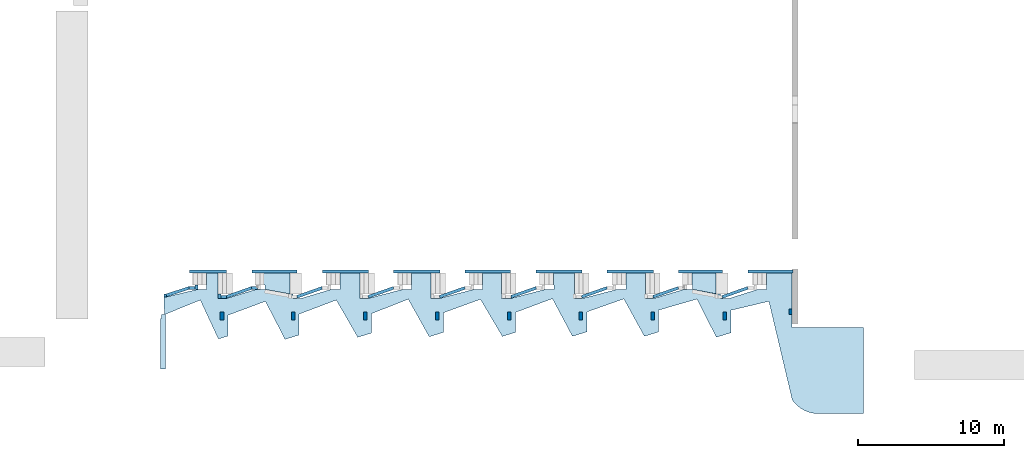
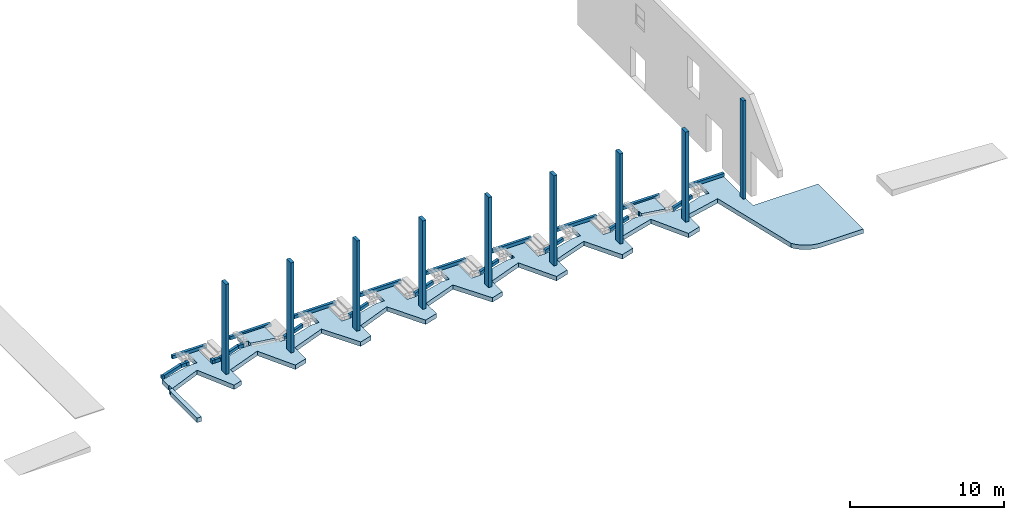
# One storey, part 1 of 8: 24 walls, 9 columns, 3 slabs.
"""IFC4 building model written with IfcOpenShell, lengths in metres."""

from ifc_helpers import new_model, entity, si_unit, converted_unit, derived_unit, direction, frame, origin, place, context, subcontext, project, spatial, line, arc, indexed_curve, outline, extrude, source, transform, mapped, material, type_object, type_shapes, element, save


model = new_model("IFC4")

# Units and contexts
model_context = context("Model", 3, precision=1e-05, world=origin(), true_north=direction((6.123031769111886e-17, 1.0)))
body_context = subcontext(model_context, "Body", "Model", "MODEL_VIEW")
ifc_project = project(units=[si_unit("LENGTHUNIT", "METRE"), si_unit("AREAUNIT", "SQUARE_METRE"), si_unit("VOLUMEUNIT", "CUBIC_METRE"), converted_unit("PLANEANGLEUNIT", "DEGREE", entity("IfcRatioMeasure", 0.017453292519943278), si_unit("PLANEANGLEUNIT", "RADIAN"), dimensions=[0, 0, 0, 0, 0, 0, 0]), si_unit("MASSUNIT", "GRAM", prefix="KILO"), derived_unit("MASSDENSITYUNIT", [(si_unit("MASSUNIT", "GRAM", prefix="KILO"), 1), (si_unit("LENGTHUNIT", "METRE"), -3)]), derived_unit("MOMENTOFINERTIAUNIT", [(si_unit("LENGTHUNIT", "METRE"), 4)]), si_unit("TIMEUNIT", "SECOND"), si_unit("FREQUENCYUNIT", "HERTZ"), si_unit("THERMODYNAMICTEMPERATUREUNIT", "DEGREE_CELSIUS"), derived_unit("THERMALTRANSMITTANCEUNIT", [(si_unit("MASSUNIT", "GRAM", prefix="KILO"), 1), (si_unit("THERMODYNAMICTEMPERATUREUNIT", "KELVIN"), -1), (si_unit("TIMEUNIT", "SECOND"), -3)]), derived_unit("VOLUMETRICFLOWRATEUNIT", [(si_unit("LENGTHUNIT", "METRE"), 3), (si_unit("TIMEUNIT", "SECOND"), -1)]), derived_unit("MASSFLOWRATEUNIT", [(si_unit("MASSUNIT", "GRAM", prefix="KILO"), 1), (si_unit("TIMEUNIT", "SECOND"), -1)]), derived_unit("ROTATIONALFREQUENCYUNIT", [(si_unit("TIMEUNIT", "SECOND"), -1)]), si_unit("ELECTRICCURRENTUNIT", "AMPERE"), si_unit("ELECTRICVOLTAGEUNIT", "VOLT"), si_unit("POWERUNIT", "WATT"), si_unit("FORCEUNIT", "NEWTON", prefix="KILO"), si_unit("ILLUMINANCEUNIT", "LUX"), si_unit("LUMINOUSFLUXUNIT", "LUMEN"), si_unit("LUMINOUSINTENSITYUNIT", "CANDELA"), derived_unit("USERDEFINED", [(si_unit("MASSUNIT", "GRAM", prefix="KILO"), -1), (si_unit("LENGTHUNIT", "METRE"), -2), (si_unit("TIMEUNIT", "SECOND"), 3), (si_unit("LUMINOUSFLUXUNIT", "LUMEN"), 1)]), derived_unit("SOUNDPOWERUNIT", [(si_unit("MASSUNIT", "GRAM", prefix="KILO"), 1), (si_unit("LENGTHUNIT", "METRE"), 2), (si_unit("TIMEUNIT", "SECOND"), -3)]), derived_unit("SOUNDPRESSUREUNIT", [(si_unit("MASSUNIT", "GRAM", prefix="KILO"), 1), (si_unit("LENGTHUNIT", "METRE"), -1), (si_unit("TIMEUNIT", "SECOND"), -2)]), derived_unit("LINEARVELOCITYUNIT", [(si_unit("LENGTHUNIT", "METRE"), 1), (si_unit("TIMEUNIT", "SECOND"), -1)]), si_unit("PRESSUREUNIT", "PASCAL"), derived_unit("USERDEFINED", [(si_unit("LENGTHUNIT", "METRE"), -2), (si_unit("MASSUNIT", "GRAM", prefix="KILO"), 1), (si_unit("TIMEUNIT", "SECOND"), -2)]), derived_unit("LINEARFORCEUNIT", [(si_unit("MASSUNIT", "GRAM", prefix="KILO"), 1), (si_unit("LENGTHUNIT", "METRE"), 1), (si_unit("TIMEUNIT", "SECOND"), -2), (si_unit("LENGTHUNIT", "METRE"), -1)]), derived_unit("PLANARFORCEUNIT", [(si_unit("MASSUNIT", "GRAM", prefix="KILO"), 1), (si_unit("LENGTHUNIT", "METRE"), 1), (si_unit("TIMEUNIT", "SECOND"), -2), (si_unit("LENGTHUNIT", "METRE"), -2)])], contexts=[model_context])

# Site, building, storey
site_placement = place(None, origin())
site = spatial("IfcSite", under=ifc_project, at=site_placement, Name="Superficie", CompositionType="ELEMENT")
building_placement = place(site_placement, origin())
building = spatial("IfcBuilding", under=site, at=building_placement, CompositionType="ELEMENT")
storey_placement = place(building_placement, frame((0.0, 0.0, -0.5599999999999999)))
storey = spatial("IfcBuildingStorey", under=building, at=storey_placement, Name="Nivel -1", CompositionType="ELEMENT", Elevation=-0.5599999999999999)

# Columns
ifc_material_1 = material(Name="<Unnamed>")
column_type_1 = type_object("IfcColumnType", Name="Pilar rectangular hormigón:250 x 560 mm 2", PredefinedType="COLUMN", material=ifc_material_1)
shared_shape_1 = source(origin(), body_context, "Body", "SweptSolid", [
    extrude(outline(indexed_curve([(-0.27999999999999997, -0.12499999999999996), (0.27999999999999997, -0.12499999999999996), (0.27999999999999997, 0.12499999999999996), (-0.27999999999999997, 0.12499999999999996), (-0.27999999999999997, -0.12499999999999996)], self_intersect=False)), frame((0.0, 0.0, -0.5600000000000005), z_axis=(0.0, 0.0, 1.0), x_axis=(0.0, -1.0, 0.0)), (0.0, 0.0, 1.0), 7.150000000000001),
])
type_shapes(column_type_1, [shared_shape_1])
for number, where in (
    (1, (15.961799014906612, -9.414451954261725, 0.5599999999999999)),
    (2, (11.011799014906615, -9.414451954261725, 0.5599999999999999)),
    (3, (6.061799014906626, -9.414451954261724, 0.5599999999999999)),
    (4, (1.1617990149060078, -9.414451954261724, 0.5599999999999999)),
    (5, (-8.738200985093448, -9.414451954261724, 0.5599999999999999)),
    (6, (-13.688200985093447, -9.414451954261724, 0.5599999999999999)),
):
    element("IfcColumn", number, at=place(storey_placement, frame(where)), inside=storey, type_object=column_type_1, material=ifc_material_1, Name="Pilar rectangular hormigón:250 x 560 mm 2", ObjectType="Pilar rectangular hormigón:250 x 560 mm 2", PredefinedType="COLUMN", context=body_context, shape_type="MappedRepresentation", body=[
        mapped(shared_shape_1, transform((0.0, 0.0, 0.0), scale=1.0)),
    ])
column_type_2 = type_object("IfcColumnType", Name="Pilar rectangular hormigón:250 x 560 mm 2", PredefinedType="COLUMN", material=ifc_material_1)
shared_shape_2 = source(origin(), body_context, "Body", "SweptSolid", [
    extrude(outline(indexed_curve([(-0.28000000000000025, -0.12499999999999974), (0.28000000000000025, -0.12499999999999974), (0.28000000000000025, 0.12500000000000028), (-0.28000000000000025, 0.12500000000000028), (-0.28000000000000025, -0.12499999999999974)], self_intersect=False)), frame((-3.788200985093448, -9.414451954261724, -0.5600000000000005), z_axis=(0.0, 0.0, 1.0), x_axis=(0.0, -1.0, 0.0)), (0.0, 0.0, 1.0), 7.017124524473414),
])
type_shapes(column_type_2, [shared_shape_2])
column_1_placement = place(storey_placement, frame((0.0, 0.0, 0.5599999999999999)))
element("IfcColumn", 7, at=column_1_placement, inside=storey, type_object=column_type_2, material=ifc_material_1, Name="Pilar rectangular hormigón:250 x 560 mm 2", ObjectType="Pilar rectangular hormigón:250 x 560 mm 2", PredefinedType="COLUMN", context=body_context, shape_type="MappedRepresentation", body=[
    mapped(shared_shape_2, transform((0.0, 0.0, 0.0), scale=1.0)),
])
column_type_3 = type_object("IfcColumnType", Name="Pilar rectangular hormigón:250 x 560 mm 2", PredefinedType="COLUMN", material=ifc_material_1)
shared_shape_3 = source(origin(), body_context, "Body", "SweptSolid", [
    extrude(outline(indexed_curve([(-0.2800000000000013, -0.12499999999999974), (0.27999999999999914, -0.12499999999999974), (0.27999999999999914, 0.12499999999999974), (-0.2800000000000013, 0.12499999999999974), (-0.2800000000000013, -0.12499999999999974)], self_intersect=False)), frame((-18.578200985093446, -9.414451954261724, -0.5600000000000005), z_axis=(0.0, 0.0, 1.0), x_axis=(0.0, -1.0, 0.0)), (0.0, 0.0, 1.0), 7.150000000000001),
])
type_shapes(column_type_3, [shared_shape_3])
column_2_placement = place(storey_placement, frame((0.0, 0.0, 0.5599999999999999)))
element("IfcColumn", 8, at=column_2_placement, inside=storey, type_object=column_type_3, material=ifc_material_1, Name="Pilar rectangular hormigón:250 x 560 mm 2", ObjectType="Pilar rectangular hormigón:250 x 560 mm 2", PredefinedType="COLUMN", context=body_context, shape_type="MappedRepresentation", body=[
    mapped(shared_shape_3, transform((0.0, 0.0, 0.0), scale=1.0)),
])
column_type_4 = type_object("IfcColumnType", Name="Pilar rectangular hormigón:200 x 370 mm 3", PredefinedType="COLUMN", material=ifc_material_1)
shared_shape_4 = source(origin(), body_context, "Body", "SweptSolid", [
    extrude(outline(indexed_curve([(-0.18500000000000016, -0.11000000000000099), (0.18500000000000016, -0.11000000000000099), (0.18500000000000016, 0.11000000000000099), (-0.18500000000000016, 0.11000000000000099), (-0.18500000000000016, -0.11000000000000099)], self_intersect=False)), frame((20.476799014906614, -9.109170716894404, -0.5600000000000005), z_axis=(0.0, 0.0, 1.0), x_axis=(0.0, -1.0, 0.0)), (0.0, 0.0, 1.0), 7.8100000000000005),
])
type_shapes(column_type_4, [shared_shape_4])
column_3_placement = place(storey_placement, frame((0.0, 0.0, 0.5599999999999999)))
element("IfcColumn", 9, at=column_3_placement, inside=storey, type_object=column_type_4, material=ifc_material_1, Name="Pilar rectangular hormigón:200 x 370 mm 3", ObjectType="Pilar rectangular hormigón:200 x 370 mm 3", PredefinedType="COLUMN", context=body_context, shape_type="MappedRepresentation", body=[
    mapped(shared_shape_4, transform((0.0, 0.0, 0.0), scale=1.0)),
])

# Slabs
ifc_material_2 = material(Name="Suelos por defecto", Category="Genérico")
slab_type_1 = type_object("IfcSlabType", Name="Suelo:Por defecto - 35 cm", PredefinedType="FLOOR", material=ifc_material_2)
slab_1_placement = place(storey_placement, origin())
element("IfcSlab", 10, at=slab_1_placement, inside=storey, type_object=slab_type_1, material=ifc_material_2, Name="Suelo:Por defecto - 35 cm", ObjectType="Suelo:Por defecto - 35 cm", PredefinedType="FLOOR", context=body_context, shape_type="SweptSolid", body=[
    extrude(outline(indexed_curve([(-4.335721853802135, -20.999076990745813), (-0.8857218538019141, -20.999076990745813), (-0.8857218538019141, -20.949076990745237), (-0.5957218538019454, -20.949076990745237), (-0.5957218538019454, -20.71907699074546), (-0.2257218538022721, -20.71907699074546), (-0.2257218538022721, -20.769076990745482), (0.6042781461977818, -20.769076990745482), (0.6042781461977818, -20.589076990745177), (1.1146485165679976, -18.459076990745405), (1.1146485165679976, -17.859076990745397), (2.254648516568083, -17.859076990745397), (2.2546485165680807, -17.059076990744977), (0.5046485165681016, -17.059076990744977), (0.5046485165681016, -16.459076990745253), (1.1146485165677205, -14.42907699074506), (1.1146485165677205, -13.82907699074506), (0.8046787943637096, -12.11930472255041), (0.8046787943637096, -11.917489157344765), (0.5046787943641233, -11.917489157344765), (0.5046787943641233, -11.316527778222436), (1.114678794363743, -9.279304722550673), (1.114678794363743, -8.679076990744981), (2.254678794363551, -8.67907699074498), (2.2546787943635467, -7.319418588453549), (0.5046787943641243, -7.319418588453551), (0.5046787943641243, -6.719418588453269), (1.1126990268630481, -4.377045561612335), (1.1126990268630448, -3.769418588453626), (2.254678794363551, -3.769418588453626), (2.254678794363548, -2.419532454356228), (0.5046787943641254, -2.4195324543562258), (0.5046787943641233, -1.819532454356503), (1.114678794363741, 0.510467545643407), (1.114678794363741, 1.110467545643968), (2.2546787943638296, 1.1105814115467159), (2.254678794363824, 2.420923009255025), (0.5046787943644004, 2.420923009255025), (0.5046787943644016, 3.080467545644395), (1.114678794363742, 5.410467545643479), (1.114678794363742, 6.010467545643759), (1.4146787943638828, 6.010467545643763), (1.4146787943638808, 5.970353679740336), (2.2546787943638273, 5.970353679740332), (2.254678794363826, 7.420923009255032), (0.5046787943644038, 7.420923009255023), (0.5046787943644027, 8.020923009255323), (1.114678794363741, 10.350239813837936), (1.114678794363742, 10.95023981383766), (2.2546787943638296, 10.950125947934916), (2.254678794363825, 12.31001208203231), (0.5046788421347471, 12.31001208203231), (0.5046788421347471, 12.910126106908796), (1.1146787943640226, 14.940125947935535), (1.1146787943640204, 15.540125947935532), (0.8046787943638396, 17.16069527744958), (0.8046787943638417, 17.46038395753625), (0.49467879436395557, 17.46038395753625), (0.4946787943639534, 18.06000043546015), (1.1146787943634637, 20.010125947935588), (1.1146787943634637, 20.61012594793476), (2.254678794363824, 20.61012594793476), (2.254678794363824, 22.38092300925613), (-1.5153515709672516, 22.38092300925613), (-1.5153515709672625, 27.270923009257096), (-7.415351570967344, 27.27092300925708), (-7.415351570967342, 24.1709230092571), (-7.166453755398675, 23.160332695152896), (-6.476697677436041, 22.38092300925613), (0.29591866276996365, 20.779111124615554), (-0.3209185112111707, 18.171063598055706), (-1.865351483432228, 18.171063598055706), (-2.173472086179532, 17.167289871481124), (0.45130709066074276, 15.842852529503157), (-0.31062925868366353, 13.210923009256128), (-1.8053514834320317, 13.210923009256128), (-2.107603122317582, 12.226268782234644), (0.4615510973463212, 10.817600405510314), (-0.43535148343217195, 8.270923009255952), (-1.8053514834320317, 8.270923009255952), (-2.107603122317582, 7.286268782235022), (0.47958132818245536, 5.910995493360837), (-0.46314515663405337, 3.380923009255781), (-1.8353514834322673, 3.380923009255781), (-2.1141272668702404, 2.4727467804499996), (0.43483963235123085, 0.9679651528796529), (-0.48896617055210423, -1.5690769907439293), (-1.8353514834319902, -1.5690769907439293), (-2.1376031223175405, -2.5537312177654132), (0.44062144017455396, -3.987348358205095), (-0.5502022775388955, -6.509721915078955), (-1.8853514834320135, -6.509721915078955), (-2.1758651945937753, -7.456137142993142), (0.3802320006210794, -8.9288445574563), (-0.5763706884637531, -11.475079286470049), (-2.017065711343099, -11.475079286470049), (-2.3163828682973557, -12.450173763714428), (0.29494278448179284, -13.800943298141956), (-0.6601956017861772, -16.369076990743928), (-2.089571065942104, -16.369076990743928), (-2.292050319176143, -17.02869972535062), (0.3834714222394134, -18.271311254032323), (-0.5957218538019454, -20.669076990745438), (-4.335721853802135, -20.669076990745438)], segments=[line(1, 2, 3, 4, 5, 6, 7, 8, 9, 10, 11, 12, 13, 14, 15, 16, 17, 18, 19, 20, 21, 22, 23, 24, 25, 26, 27, 28, 29, 30, 31, 32, 33, 34, 35, 36, 37, 38, 39, 40, 41, 42, 43, 44, 45, 46, 47, 48, 49, 50, 51, 52, 53, 54, 55, 56, 57, 58, 59, 60, 61, 62, 63, 64, 65, 66, 67), arc(67, 68, 69), line(69, 70, 71, 72, 73, 74, 75, 76, 77, 78, 79, 80, 81, 82, 83, 84, 85, 86, 87, 88, 89, 90, 91, 92, 93, 94, 95, 96, 97, 98, 99, 100, 101, 102, 103, 104, 1)], self_intersect=False)), frame((-1.7941239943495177, -8.698819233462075, 0.0), z_axis=(0.0, 0.0, -1.0), x_axis=(0.0, 1.0, 0.0)), (0.0, 0.0, 1.0), 0.35000000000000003),
])
slab_type_2 = type_object("IfcSlabType", Name="Suelo:Por defecto - 35 cm", PredefinedType="FLOOR", material=ifc_material_2)
slab_2_placement = place(storey_placement, origin())
element("IfcSlab", 11, at=slab_2_placement, inside=storey, type_object=slab_type_2, material=ifc_material_2, Name="Suelo:Por defecto - 35 cm", ObjectType="Suelo:Por defecto - 35 cm", PredefinedType="FLOOR", context=body_context, shape_type="SweptSolid", body=[
    extrude(outline(indexed_curve([(-0.12833837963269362, -0.7899240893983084), (0.711661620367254, -0.7899240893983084), (0.7116616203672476, 1.2498481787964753), (-0.7383081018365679, 1.2498481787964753), (-0.4283383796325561, -0.459924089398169), (-0.1283383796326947, -0.459924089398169), (-0.12833837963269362, -0.7899240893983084)], self_intersect=False)), frame((-15.163276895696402, -7.155832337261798, 0.14000000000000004), z_axis=(0.0, 0.0, -1.0), x_axis=(0.0, 1.0, 0.0)), (0.0, 0.0, 1.0), 0.34999999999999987),
])
slab_type_3 = type_object("IfcSlabType", Name="Suelo:Por defecto - 35 cm", PredefinedType="FLOOR", material=ifc_material_2)
slab_3_placement = place(storey_placement, origin())
element("IfcSlab", 12, at=slab_3_placement, inside=storey, type_object=slab_type_3, material=ifc_material_2, Name="Suelo:Por defecto - 35 cm", ObjectType="Suelo:Por defecto - 35 cm", PredefinedType="FLOOR", context=body_context, shape_type="SweptSolid", body=[
    extrude(outline(indexed_curve([(-0.128343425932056, -0.5798659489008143), (0.7116565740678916, -0.5798659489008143), (0.7116565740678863, 1.100217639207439), (-0.7383131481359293, 1.100217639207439), (-0.4283131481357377, -0.5203516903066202), (-0.128343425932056, -0.5203516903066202), (-0.128343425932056, -0.5798659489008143)], self_intersect=False)), frame((14.26635364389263, -7.155827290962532, 0.14000000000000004), z_axis=(0.0, 0.0, -1.0), x_axis=(0.0, 1.0, 0.0)), (0.0, 0.0, 1.0), 0.34999999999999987),
])

# Walls
ifc_material_3 = material(Name="Muro por defecto", Category="Varios")
wall_type = type_object("IfcWallType", Name="Muro básico:Por defecto - 20 cm", PredefinedType="STANDARD")
wall_1_placement = place(storey_placement, frame((-22.563200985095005, -7.994541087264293, 0.0)))
element("IfcWall", 13, at=wall_1_placement, inside=storey, type_object=wall_type, material=ifc_material_3, Name="Muro básico:Por defecto - 20 cm", ObjectType="Muro básico:Por defecto - 20 cm", PredefinedType="NOTDEFINED", context=body_context, shape_type="SweptSolid", body=[
    extrude(outline(indexed_curve([(0.18000000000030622, -0.1), (0.1481154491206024, 0.09999999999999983), (-6.015928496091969e-16, 0.1), (6.015928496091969e-16, -0.1), (0.18000000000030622, -0.1)], self_intersect=False)), origin(), (0.0, 0.0, 1.0), 0.25999999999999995),
])
wall_2_placement = place(storey_placement, frame((-22.414295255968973, -7.999498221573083, 0.0), z_axis=(0.0, 0.0, 1.0), x_axis=(0.9504286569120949, 0.3109427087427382, 0.0)))
element("IfcWall", 14, at=wall_2_placement, inside=storey, type_object=wall_type, material=ifc_material_3, Name="Muro básico:Por defecto - 20 cm", ObjectType="Muro básico:Por defecto - 20 cm", PredefinedType="NOTDEFINED", context=body_context, shape_type="SweptSolid", body=[
    extrude(outline(indexed_curve([(1.6413646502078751, -0.10000000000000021), (1.6732492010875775, 0.10000000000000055), (0.03188455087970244, 0.09999999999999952), (3.468558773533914e-16, -0.10000000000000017), (1.6413646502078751, -0.10000000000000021)], self_intersect=False)), origin(), (0.0, 0.0, 1.0), 0.25999999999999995),
])
wall_3_placement = place(storey_placement, frame((-20.855085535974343, -7.48417071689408, 0.0)))
element("IfcWall", 15, at=wall_3_placement, inside=storey, type_object=wall_type, material=ifc_material_3, Name="Muro básico:Por defecto - 20 cm", ObjectType="Muro básico:Por defecto - 20 cm", PredefinedType="NOTDEFINED", context=body_context, shape_type="SweptSolid", body=[
    extrude(outline(indexed_curve([(0.43188455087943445, -0.09999999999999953), (0.4318845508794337, 0.10000000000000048), (-3.609557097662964e-16, 0.1), (0.03188455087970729, -0.0999999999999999), (0.43188455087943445, -0.09999999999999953)], self_intersect=False)), origin(), (0.0, 0.0, 1.0), 0.25999999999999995),
])
wall_4_placement = place(storey_placement, frame((-20.32320098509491, -7.584170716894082, 0.0), z_axis=(0.0, 0.0, 1.0), x_axis=(0.0, 1.0, 0.0)))
element("IfcWall", 16, at=wall_4_placement, inside=storey, type_object=wall_type, material=ifc_material_3, Name="Muro básico:Por defecto - 20 cm", ObjectType="Muro básico:Por defecto - 20 cm", PredefinedType="NOTDEFINED", context=body_context, shape_type="SweptSolid", body=[
    extrude(outline(indexed_curve([(0.30000000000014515, 0.09999999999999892), (0.0, 0.09999999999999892), (0.0, -0.09999999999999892), (0.30000000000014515, -0.09999999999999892), (0.30000000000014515, 0.09999999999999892)], self_intersect=False)), origin(), (0.0, 0.0, 1.0), 0.25999999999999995),
])
wall_5_placement = place(storey_placement, frame((-20.823200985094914, -6.344170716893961, 0.0)))
element("IfcWall", 17, at=wall_5_placement, inside=storey, type_object=wall_type, material=ifc_material_3, Name="Muro básico:Por defecto - 20 cm", ObjectType="Muro básico:Por defecto - 20 cm", PredefinedType="NOTDEFINED", context=body_context, shape_type="SweptSolid", body=[
    extrude(outline(indexed_curve([(2.57000000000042, 0.1), (-3.3707926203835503e-16, 0.1), (3.3707926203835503e-16, -0.1), (2.5700000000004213, -0.1), (2.57000000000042, 0.1)], self_intersect=False)), origin(), (0.0, 0.0, 1.0), 0.25999999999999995),
])
wall_6_placement = place(storey_placement, frame((-16.523200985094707, -6.344170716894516, 0.0)))
element("IfcWall", 18, at=wall_6_placement, inside=storey, type_object=wall_type, material=ifc_material_3, Name="Muro básico:Por defecto - 20 cm", ObjectType="Muro básico:Por defecto - 20 cm", PredefinedType="NOTDEFINED", context=body_context, shape_type="SweptSolid", body=[
    extrude(outline(indexed_curve([(3.1097722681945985, 0.1), (-3.1339285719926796e-16, 0.1), (3.1339285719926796e-16, -0.1), (3.1097722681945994, -0.1), (3.1097722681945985, 0.1)], self_intersect=False)), origin(), (0.0, 0.0, 1.0), 0.25999999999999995),
])
wall_7_placement = place(storey_placement, frame((-18.753200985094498, -7.894170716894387, 0.0), z_axis=(0.0, 0.0, 1.0), x_axis=(0.0, -1.0, 0.0)))
element("IfcWall", 19, at=wall_7_placement, inside=storey, type_object=wall_type, material=ifc_material_3, Name="Muro básico:Por defecto - 20 cm", ObjectType="Muro básico:Por defecto - 20 cm", PredefinedType="NOTDEFINED", context=body_context, shape_type="SweptSolid", body=[
    extrude(outline(indexed_curve([(0.2999999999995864, 0.09999999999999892), (0.0, 0.09999999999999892), (0.0, -0.09999999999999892), (0.2999999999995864, -0.09999999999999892), (0.2999999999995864, 0.09999999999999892)], self_intersect=False)), origin(), (0.0, 0.0, 1.0), 0.25999999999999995),
])
wall_8_placement = place(storey_placement, frame((-18.653200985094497, -8.094170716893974, 0.0)))
element("IfcWall", 20, at=wall_8_placement, inside=storey, type_object=wall_type, material=ifc_material_3, Name="Muro básico:Por defecto - 20 cm", ObjectType="Muro básico:Por defecto - 20 cm", PredefinedType="NOTDEFINED", context=body_context, shape_type="SweptSolid", body=[
    extrude(outline(indexed_curve([(0.39999999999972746, -0.09999999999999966), (0.36577257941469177, 0.10000000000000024), (-3.609557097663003e-16, 0.10000000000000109), (3.609557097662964e-16, -0.1), (0.39999999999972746, -0.09999999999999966)], self_intersect=False)), origin(), (0.0, 0.0, 1.0), 0.25999999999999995),
])
wall_9_placement = place(storey_placement, frame((-18.286454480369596, -8.099861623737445, 0.0), z_axis=(0.0, 0.0, 1.0), x_axis=(0.9430909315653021, 0.3325349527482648, 0.0)))
element("IfcWall", 21, at=wall_9_placement, inside=storey, type_object=wall_type, material=ifc_material_3, Name="Muro básico:Por defecto - 20 cm", ObjectType="Muro básico:Por defecto - 20 cm", PredefinedType="NOTDEFINED", context=body_context, shape_type="SweptSolid", body=[
    extrude(outline(indexed_curve([(1.8343936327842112, -0.10000000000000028), (1.8686210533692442, 0.10000000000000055), (0.03422742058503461, 0.09999999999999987), (-2.4110713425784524e-16, -0.1000000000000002), (1.8343936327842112, -0.10000000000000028)], self_intersect=False)), origin(), (0.0, 0.0, 1.0), 0.25999999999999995),
])
wall_10_placement = place(storey_placement, frame((-16.557428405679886, -7.484170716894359, 0.0)))
element("IfcWall", 22, at=wall_10_placement, inside=storey, type_object=wall_type, material=ifc_material_3, Name="Muro básico:Por defecto - 20 cm", ObjectType="Muro básico:Por defecto - 20 cm", PredefinedType="NOTDEFINED", context=body_context, shape_type="SweptSolid", body=[
    extrude(outline(indexed_curve([(0.43422742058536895, -0.09999999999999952), (0.4342274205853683, 0.1000000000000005), (-3.6095570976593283e-16, 0.1), (0.03422742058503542, -0.0999999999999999), (0.43422742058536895, -0.09999999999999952)], self_intersect=False)), origin(), (0.0, 0.0, 1.0), 0.25999999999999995),
])
wall_11_placement = place(storey_placement, frame((-13.446682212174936, -8.099831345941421, 0.0), z_axis=(0.0, 0.0, 1.0), x_axis=(0.9430909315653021, 0.3325349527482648, 0.0)))
element("IfcWall", 23, at=wall_11_placement, inside=storey, type_object=wall_type, material=ifc_material_3, Name="Muro básico:Por defecto - 20 cm", ObjectType="Muro básico:Por defecto - 20 cm", PredefinedType="NOTDEFINED", context=body_context, shape_type="SweptSolid", body=[
    extrude(outline(indexed_curve([(1.8343936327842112, -0.10000000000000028), (1.8686210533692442, 0.10000000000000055), (0.03422742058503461, 0.09999999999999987), (-2.4110713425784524e-16, -0.1000000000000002), (1.8343936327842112, -0.10000000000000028)], self_intersect=False)), origin(), (0.0, 0.0, 1.0), 0.25999999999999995),
])
wall_12_placement = place(storey_placement, frame((-11.683200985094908, -6.3441707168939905, 0.0)))
element("IfcWall", 24, at=wall_12_placement, inside=storey, type_object=wall_type, material=ifc_material_3, Name="Muro básico:Por defecto - 20 cm", ObjectType="Muro básico:Por defecto - 20 cm", PredefinedType="NOTDEFINED", context=body_context, shape_type="SweptSolid", body=[
    extrude(outline(indexed_curve([(3.170000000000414, 0.1), (-3.0743861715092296e-16, 0.1), (3.0743861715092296e-16, -0.1), (3.1700000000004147, -0.1), (3.170000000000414, 0.1)], self_intersect=False)), origin(), (0.0, 0.0, 1.0), 0.25999999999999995),
])
wall_13_placement = place(storey_placement, frame((-8.546796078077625, -8.099831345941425, 0.0), z_axis=(0.0, 0.0, 1.0), x_axis=(0.9430909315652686, 0.33253495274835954, 0.0)))
element("IfcWall", 25, at=wall_13_placement, inside=storey, type_object=wall_type, material=ifc_material_3, Name="Muro básico:Por defecto - 20 cm", ObjectType="Muro básico:Por defecto - 20 cm", PredefinedType="NOTDEFINED", context=body_context, shape_type="SweptSolid", body=[
    extrude(outline(indexed_curve([(1.8343936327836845, -0.09999999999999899), (1.8686210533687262, 0.09999999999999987), (0.034227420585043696, 0.1000000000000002), (3.3416602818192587e-16, -0.09999999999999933), (1.8343936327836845, -0.09999999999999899)], self_intersect=False)), origin(), (0.0, 0.0, 1.0), 0.25999999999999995),
])
wall_14_placement = place(storey_placement, frame((-6.783314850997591, -6.3441707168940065, 0.0)))
element("IfcWall", 26, at=wall_14_placement, inside=storey, type_object=wall_type, material=ifc_material_3, Name="Muro básico:Por defecto - 20 cm", ObjectType="Muro básico:Por defecto - 20 cm", PredefinedType="NOTDEFINED", context=body_context, shape_type="SweptSolid", body=[
    extrude(outline(indexed_curve([(3.1701138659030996, 0.1), (-3.0742757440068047e-16, 0.1), (3.0742757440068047e-16, -0.1), (3.170113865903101, -0.1), (3.1701138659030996, 0.1)], self_intersect=False)), origin(), (0.0, 0.0, 1.0), 0.25999999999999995),
])
wall_15_placement = place(storey_placement, frame((-3.646909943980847, -8.099831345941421, 0.0), z_axis=(0.0, 0.0, 1.0), x_axis=(0.9430909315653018, 0.3325349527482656, 0.0)))
element("IfcWall", 27, at=wall_15_placement, inside=storey, type_object=wall_type, material=ifc_material_3, Name="Muro básico:Por defecto - 20 cm", ObjectType="Muro básico:Por defecto - 20 cm", PredefinedType="NOTDEFINED", context=body_context, shape_type="SweptSolid", body=[
    extrude(outline(indexed_curve([(1.8343936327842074, -0.0999999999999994), (1.8686210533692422, 0.10000000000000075), (0.034227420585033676, 0.1000000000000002), (2.537969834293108e-17, -0.09999999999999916), (1.8343936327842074, -0.0999999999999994)], self_intersect=False)), origin(), (0.0, 0.0, 1.0), 0.25999999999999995),
])
wall_16_placement = place(storey_placement, frame((-1.8834287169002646, -6.3441707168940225, 0.0)))
element("IfcWall", 28, at=wall_16_placement, inside=storey, type_object=wall_type, material=ifc_material_3, Name="Muro básico:Por defecto - 20 cm", ObjectType="Muro básico:Por defecto - 20 cm", PredefinedType="NOTDEFINED", context=body_context, shape_type="SweptSolid", body=[
    extrude(outline(indexed_curve([(3.129886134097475, 0.1), (-4.066209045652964e-17, 0.1), (4.066209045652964e-17, -0.1), (3.1298861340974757, -0.1), (3.129886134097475, 0.1)], self_intersect=False)), origin(), (0.0, 0.0, 1.0), 0.25999999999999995),
])
wall_17_placement = place(storey_placement, frame((1.2530900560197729, -8.099831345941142, 0.0), z_axis=(0.0, 0.0, 1.0), x_axis=(0.9430909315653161, 0.3325349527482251, 0.0)))
element("IfcWall", 29, at=wall_17_placement, inside=storey, type_object=wall_type, material=ifc_material_3, Name="Muro básico:Por defecto - 20 cm", ObjectType="Muro básico:Por defecto - 20 cm", PredefinedType="NOTDEFINED", context=body_context, shape_type="SweptSolid", body=[
    extrude(outline(indexed_curve([(1.8343936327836, -0.09999999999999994), (1.8686210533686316, 0.09999999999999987), (0.03422742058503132, 0.09999999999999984), (2.9609648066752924e-17, -0.09999999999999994), (1.8343936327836, -0.09999999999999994)], self_intersect=False)), origin(), (0.0, 0.0, 1.0), 0.25999999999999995),
])
wall_18_placement = place(storey_placement, frame((2.976229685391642, -6.3441404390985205, 0.0)))
element("IfcWall", 30, at=wall_18_placement, inside=storey, type_object=wall_type, material=ifc_material_3, Name="Muro básico:Por defecto - 20 cm", ObjectType="Muro básico:Por defecto - 20 cm", PredefinedType="NOTDEFINED", context=body_context, shape_type="SweptSolid", body=[
    extrude(outline(indexed_curve([(3.1699999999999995, 0.1), (2.341962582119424e-16, 0.1), (-2.341962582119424e-16, -0.1), (3.1699999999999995, -0.1), (3.1699999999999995, 0.1)], self_intersect=False)), origin(), (0.0, 0.0, 1.0), 0.25999999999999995),
])
wall_19_placement = place(storey_placement, frame((6.112862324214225, -8.099831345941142, 0.0), z_axis=(0.0, 0.0, 1.0), x_axis=(0.9430909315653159, 0.33253495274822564, 0.0)))
element("IfcWall", 31, at=wall_19_placement, inside=storey, type_object=wall_type, material=ifc_material_3, Name="Muro básico:Por defecto - 20 cm", ObjectType="Muro básico:Por defecto - 20 cm", PredefinedType="NOTDEFINED", context=body_context, shape_type="SweptSolid", body=[
    extrude(outline(indexed_curve([(1.8343936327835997, -0.09999999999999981), (1.8686210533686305, 0.10000000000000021), (0.03422742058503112, 0.0999999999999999), (4.822142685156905e-16, -0.10000000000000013), (1.8343936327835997, -0.09999999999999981)], self_intersect=False)), origin(), (0.0, 0.0, 1.0), 0.25999999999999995),
])
wall_20_placement = place(storey_placement, frame((7.876343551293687, -6.344170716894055, 0.0)))
element("IfcWall", 32, at=wall_20_placement, inside=storey, type_object=wall_type, material=ifc_material_3, Name="Muro básico:Por defecto - 20 cm", ObjectType="Muro básico:Por defecto - 20 cm", PredefinedType="NOTDEFINED", context=body_context, shape_type="SweptSolid", body=[
    extrude(outline(indexed_curve([(3.1704554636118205, 0.1), (-3.073944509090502e-16, 0.1), (3.073944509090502e-16, -0.1), (3.1704554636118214, -0.1), (3.1704554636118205, 0.1)], self_intersect=False)), origin(), (0.0, 0.0, 1.0), 0.25999999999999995),
])
wall_21_placement = place(storey_placement, frame((11.013547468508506, -8.099860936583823, 0.0), z_axis=(0.0, 0.0, 1.0), x_axis=(0.9430978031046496, 0.3325154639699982, 0.0)))
element("IfcWall", 33, at=wall_21_placement, inside=storey, type_object=wall_type, material=ifc_material_3, Name="Muro básico:Por defecto - 20 cm", ObjectType="Muro básico:Por defecto - 20 cm", PredefinedType="NOTDEFINED", context=body_context, shape_type="SweptSolid", body=[
    extrude(outline(indexed_curve([(1.8399999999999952, -0.10000000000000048), (1.8742252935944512, 0.0999999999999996), (0.034225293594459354, 0.09999999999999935), (7.825406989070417e-16, -0.10000000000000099), (1.8399999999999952, -0.10000000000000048)], self_intersect=False)), origin(), (0.0, 0.0, 1.0), 0.25999999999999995),
])
wall_22_placement = place(storey_placement, frame((12.776001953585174, -6.344140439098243, 0.0)))
element("IfcWall", 34, at=wall_22_placement, inside=storey, type_object=wall_type, material=ifc_material_3, Name="Muro básico:Por defecto - 20 cm", ObjectType="Muro básico:Por defecto - 20 cm", PredefinedType="NOTDEFINED", context=body_context, shape_type="SweptSolid", body=[
    extrude(outline(indexed_curve([(3.0200000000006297, 0.1), (-3.2270874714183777e-16, 0.1), (3.2270874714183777e-16, -0.1), (3.0200000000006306, -0.1), (3.0200000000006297, 0.1)], self_intersect=False)), origin(), (0.0, 0.0, 1.0), 0.25999999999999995),
])
wall_23_placement = place(storey_placement, frame((15.762607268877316, -8.109881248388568, 0.0), z_axis=(0.0, 0.0, 1.0), x_axis=(0.9425919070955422, 0.33394684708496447, 0.0)))
element("IfcWall", 35, at=wall_23_placement, inside=storey, type_object=wall_type, material=ifc_material_3, Name="Muro básico:Por defecto - 20 cm", ObjectType="Muro básico:Por defecto - 20 cm", PredefinedType="NOTDEFINED", context=body_context, shape_type="SweptSolid", body=[
    extrude(outline(indexed_curve([(1.8565828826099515, -0.0999999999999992), (1.890964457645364, 0.10000000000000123), (0.03438157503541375, 0.10000000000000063), (-6.767919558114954e-16, -0.09999999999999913), (1.8565828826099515, -0.0999999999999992)], self_intersect=False)), origin(), (0.0, 0.0, 1.0), 0.25999999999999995),
])
wall_24_placement = place(storey_placement, frame((17.546229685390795, -6.344170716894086, 0.0)))
element("IfcWall", 36, at=wall_24_placement, inside=storey, type_object=wall_type, material=ifc_material_3, Name="Muro básico:Por defecto - 20 cm", ObjectType="Muro básico:Por defecto - 20 cm", PredefinedType="NOTDEFINED", context=body_context, shape_type="SweptSolid", body=[
    extrude(outline(indexed_curve([(3.090569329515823, 0.09999999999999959), (-3.0185251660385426e-16, 0.1), (3.0185251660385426e-16, -0.1), (3.0905693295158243, -0.10000000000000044), (3.090569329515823, 0.09999999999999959)], self_intersect=False)), origin(), (0.0, 0.0, 1.0), 0.25999999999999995),
])

save(model, "model.ifc")
